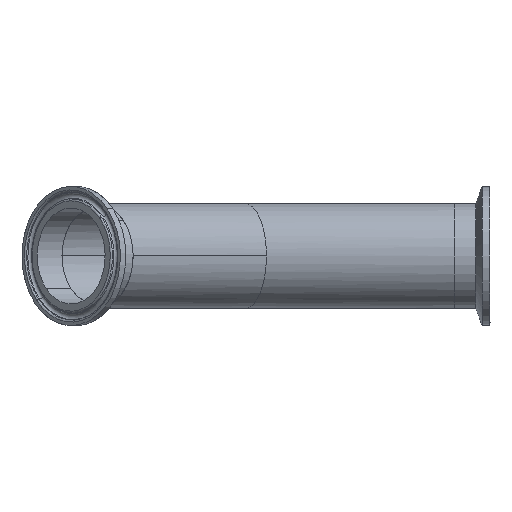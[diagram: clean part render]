
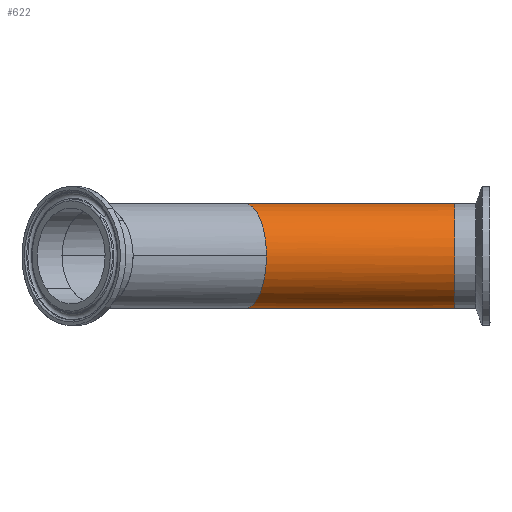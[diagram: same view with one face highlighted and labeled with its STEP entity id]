
A CAD part, left-side view. The second image highlights one B-rep face of the part: STEP entity #622.
In plain terms, the highlighted cylindrical face has radius 19.05 mm (diameter 38.1 mm), a partial arc.
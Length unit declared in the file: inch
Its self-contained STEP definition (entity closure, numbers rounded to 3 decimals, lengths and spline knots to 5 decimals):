
#59 = ORIENTED_EDGE ( 'NONE', *, *, #1340, .T. ) ;
#67 = ORIENTED_EDGE ( 'NONE', *, *, #887, .F. ) ;
#89 = CARTESIAN_POINT ( 'NONE',  ( 0., 0., 0. ) ) ;
#96 =( BOUNDED_CURVE ( )  B_SPLINE_CURVE ( 3, ( #569, #999, #1204, #1191 ),
 .UNSPECIFIED., .F., .T. ) 
 B_SPLINE_CURVE_WITH_KNOTS ( ( 4, 4 ),
 ( 4.71239, 6.28319 ),
 .UNSPECIFIED. ) 
 CURVE ( )  GEOMETRIC_REPRESENTATION_ITEM ( )  RATIONAL_B_SPLINE_CURVE ( ( 1., 0.805, 0.805, 1. ) ) 
 REPRESENTATION_ITEM ( '' )  );
#98 = DIRECTION ( 'NONE',  ( 0., 0., -1. ) ) ;
#103 = DIRECTION ( 'NONE',  ( 0., 1., 0. ) ) ;
#123 = DIRECTION ( 'NONE',  ( 0., -1., 0. ) ) ;
#130 = CARTESIAN_POINT ( 'NONE',  ( 0., 3., 0.75 ) ) ;
#237 = EDGE_LOOP ( 'NONE', ( #67, #1331, #1236, #577, #59 ) ) ;
#356 = EDGE_CURVE ( 'NONE', #426, #774, #96, .T. ) ;
#379 = CARTESIAN_POINT ( 'NONE',  ( 0., 0., 0.75 ) ) ;
#423 = DIRECTION ( 'NONE',  ( 0., -1., 0. ) ) ;
#426 = VERTEX_POINT ( 'NONE', #1035 ) ;
#470 = CARTESIAN_POINT ( 'NONE',  ( -0.75, 2.68934, 0. ) ) ;
#472 = EDGE_CURVE ( 'NONE', #1178, #1254, #1124, .T. ) ;
#482 = EDGE_CURVE ( 'NONE', #774, #1178, #1029, .T. ) ;
#492 = DIRECTION ( 'NONE',  ( 0., -1., 0. ) ) ;
#528 = DIRECTION ( 'NONE',  ( 0., 0., 1. ) ) ;
#561 = CIRCLE ( 'NONE', #881, 0.75 ) ;
#569 = CARTESIAN_POINT ( 'NONE',  ( 0., 3., 0.75 ) ) ;
#577 = ORIENTED_EDGE ( 'NONE', *, *, #472, .T. ) ;
#598 = CARTESIAN_POINT ( 'NONE',  ( -0.75, 2.68934, -0.43934 ) ) ;
#622 = ADVANCED_FACE ( 'NONE', ( #747 ), #1074, .T. ) ;
#655 = VECTOR ( 'NONE', #492, 39.37008 ) ;
#678 = CARTESIAN_POINT ( 'NONE',  ( -0.75, 2.68934, 0. ) ) ;
#723 = CARTESIAN_POINT ( 'NONE',  ( 0., 0., -0.75 ) ) ;
#747 = FACE_OUTER_BOUND ( 'NONE', #237, .T. ) ;
#774 = VERTEX_POINT ( 'NONE', #678 ) ;
#795 = CARTESIAN_POINT ( 'NONE',  ( 0., 3., -0.75 ) ) ;
#832 = CARTESIAN_POINT ( 'NONE',  ( 0., 3., 0. ) ) ;
#881 = AXIS2_PLACEMENT_3D ( 'NONE', #89, #103, #528 ) ;
#887 = EDGE_CURVE ( 'NONE', #426, #910, #1115, .T. ) ;
#910 = VERTEX_POINT ( 'NONE', #379 ) ;
#935 = CARTESIAN_POINT ( 'NONE',  ( 0., 3., -0.75 ) ) ;
#999 = CARTESIAN_POINT ( 'NONE',  ( -0.43934, 2.81802, 0.75 ) ) ;
#1029 =( BOUNDED_CURVE ( )  B_SPLINE_CURVE ( 3, ( #470, #598, #1253, #1151 ),
 .UNSPECIFIED., .F., .T. ) 
 B_SPLINE_CURVE_WITH_KNOTS ( ( 4, 4 ),
 ( 0., 1.5708 ),
 .UNSPECIFIED. ) 
 CURVE ( )  GEOMETRIC_REPRESENTATION_ITEM ( )  RATIONAL_B_SPLINE_CURVE ( ( 1., 0.805, 0.805, 1. ) ) 
 REPRESENTATION_ITEM ( '' )  );
#1035 = CARTESIAN_POINT ( 'NONE',  ( 0., 3., 0.75 ) ) ;
#1074 = CYLINDRICAL_SURFACE ( 'NONE', #1192, 0.75 ) ;
#1115 = LINE ( 'NONE', #130, #1365 ) ;
#1124 = LINE ( 'NONE', #795, #655 ) ;
#1151 = CARTESIAN_POINT ( 'NONE',  ( 0., 3., -0.75 ) ) ;
#1178 = VERTEX_POINT ( 'NONE', #935 ) ;
#1191 = CARTESIAN_POINT ( 'NONE',  ( -0.75, 2.68934, 0. ) ) ;
#1192 = AXIS2_PLACEMENT_3D ( 'NONE', #832, #423, #98 ) ;
#1204 = CARTESIAN_POINT ( 'NONE',  ( -0.75, 2.68934, 0.43934 ) ) ;
#1236 = ORIENTED_EDGE ( 'NONE', *, *, #482, .T. ) ;
#1253 = CARTESIAN_POINT ( 'NONE',  ( -0.43934, 2.81802, -0.75 ) ) ;
#1254 = VERTEX_POINT ( 'NONE', #723 ) ;
#1331 = ORIENTED_EDGE ( 'NONE', *, *, #356, .T. ) ;
#1340 = EDGE_CURVE ( 'NONE', #1254, #910, #561, .T. ) ;
#1365 = VECTOR ( 'NONE', #123, 39.37008 ) ;
